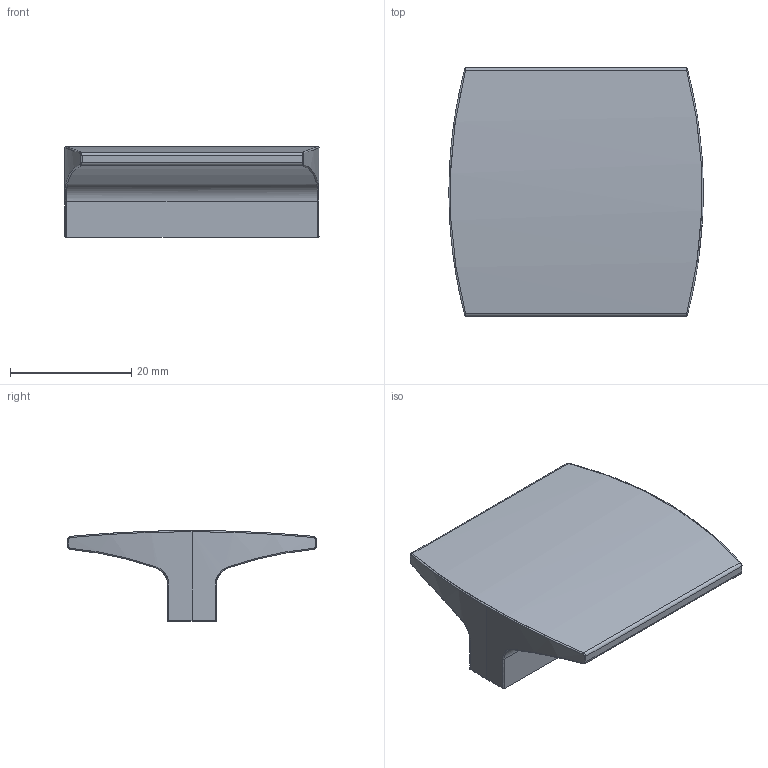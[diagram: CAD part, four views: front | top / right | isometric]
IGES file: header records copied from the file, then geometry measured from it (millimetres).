
Start section: C
Global section: file name: 8236-42 RE4.igs; native system: By Siemens PLM Incorporated; preprocessor: XPlus GENERIC/IGES 16.0.42; author: Author; organization: Title; date: 20220504.160949; units: millimetre
Bounding box: 41.97 x 41 x 14.98 mm (x, y, z)
Surface area: 4606.1 mm2 (no closed solid volume)
Topology: 0 solids, 0 shells, 46 faces, 218 edges, 218 vertices
Faces by surface type: bspline 46
